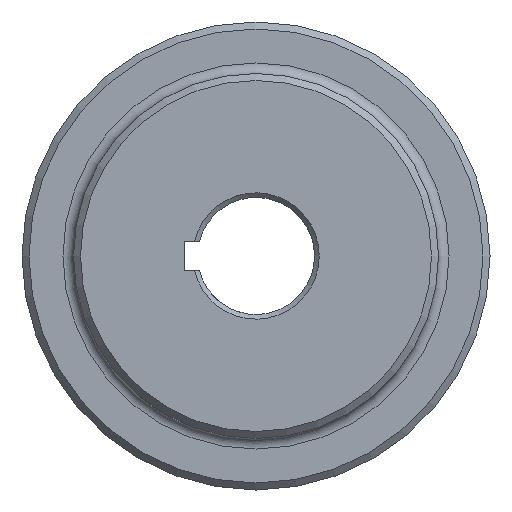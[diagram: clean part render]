
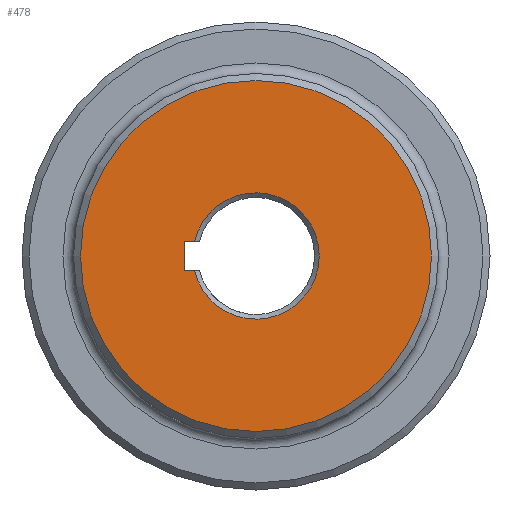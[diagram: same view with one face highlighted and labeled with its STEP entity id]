
A CAD part, left-side view. The second image highlights one B-rep face of the part: STEP entity #478.
In plain terms, the highlighted planar face has unit normal (-1, 0, 0).
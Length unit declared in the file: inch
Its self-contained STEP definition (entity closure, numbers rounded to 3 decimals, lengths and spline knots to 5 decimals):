
#58 = EDGE_LOOP ( 'NONE', ( #647 ) ) ;
#67 = EDGE_CURVE ( 'NONE', #342, #2124, #105, .T. ) ;
#88 = CARTESIAN_POINT ( 'NONE',  ( 0., 0., 0. ) ) ;
#105 = CIRCLE ( 'NONE', #518, 0.54015 ) ;
#119 = ORIENTED_EDGE ( 'NONE', *, *, #1329, .F. ) ;
#143 = CARTESIAN_POINT ( 'NONE',  ( 0., 0., 0.125 ) ) ;
#148 = CARTESIAN_POINT ( 'NONE',  ( 0., 0., 0. ) ) ;
#173 = LINE ( 'NONE', #1427, #1518 ) ;
#342 = VERTEX_POINT ( 'NONE', #949 ) ;
#413 = DIRECTION ( 'NONE',  ( 0., 1., 0. ) ) ;
#449 = DIRECTION ( 'NONE',  ( 0., -1., 0. ) ) ;
#478 = ADVANCED_FACE ( 'NONE', ( #2156, #1234 ), #1457, .F. ) ;
#518 = AXIS2_PLACEMENT_3D ( 'NONE', #148, #1135, #1544 ) ;
#641 = LINE ( 'NONE', #143, #1157 ) ;
#647 = ORIENTED_EDGE ( 'NONE', *, *, #1860, .T. ) ;
#770 = VERTEX_POINT ( 'NONE', #1750 ) ;
#807 = DIRECTION ( 'NONE',  ( 1., 0., 0. ) ) ;
#844 = CARTESIAN_POINT ( 'NONE',  ( 0., 0., 0. ) ) ;
#874 = AXIS2_PLACEMENT_3D ( 'NONE', #88, #1182, #1134 ) ;
#949 = CARTESIAN_POINT ( 'NONE',  ( 0., 0.52549, 0.125 ) ) ;
#1077 = CARTESIAN_POINT ( 'NONE',  ( 0., 0.52549, -0.125 ) ) ;
#1116 = CIRCLE ( 'NONE', #874, 1.5 ) ;
#1134 = DIRECTION ( 'NONE',  ( 0., 0., -1. ) ) ;
#1135 = DIRECTION ( 'NONE',  ( 1., 0., 0. ) ) ;
#1139 = CARTESIAN_POINT ( 'NONE',  ( 0., 0.61485, -0.125 ) ) ;
#1157 = VECTOR ( 'NONE', #413, 39.37008 ) ;
#1182 = DIRECTION ( 'NONE',  ( -1., 0., 0. ) ) ;
#1189 = VERTEX_POINT ( 'NONE', #1924 ) ;
#1198 = EDGE_CURVE ( 'NONE', #1590, #2124, #173, .T. ) ;
#1234 = FACE_BOUND ( 'NONE', #1829, .T. ) ;
#1326 = ORIENTED_EDGE ( 'NONE', *, *, #1198, .F. ) ;
#1329 = EDGE_CURVE ( 'NONE', #342, #770, #641, .T. ) ;
#1427 = CARTESIAN_POINT ( 'NONE',  ( 0., 0., -0.125 ) ) ;
#1457 = PLANE ( 'NONE',  #1639 ) ;
#1518 = VECTOR ( 'NONE', #449, 39.37008 ) ;
#1544 = DIRECTION ( 'NONE',  ( 0., 0., -1. ) ) ;
#1575 = ORIENTED_EDGE ( 'NONE', *, *, #67, .T. ) ;
#1590 = VERTEX_POINT ( 'NONE', #1873 ) ;
#1637 = DIRECTION ( 'NONE',  ( 0., 0., -1. ) ) ;
#1639 = AXIS2_PLACEMENT_3D ( 'NONE', #844, #807, #1637 ) ;
#1675 = VECTOR ( 'NONE', #1733, 39.37008 ) ;
#1693 = LINE ( 'NONE', #1139, #1675 ) ;
#1729 = ORIENTED_EDGE ( 'NONE', *, *, #1754, .F. ) ;
#1733 = DIRECTION ( 'NONE',  ( 0., 0., -1. ) ) ;
#1750 = CARTESIAN_POINT ( 'NONE',  ( 0., 0.61485, 0.125 ) ) ;
#1754 = EDGE_CURVE ( 'NONE', #770, #1590, #1693, .T. ) ;
#1829 = EDGE_LOOP ( 'NONE', ( #119, #1575, #1326, #1729 ) ) ;
#1860 = EDGE_CURVE ( 'NONE', #1189, #1189, #1116, .T. ) ;
#1873 = CARTESIAN_POINT ( 'NONE',  ( 0., 0.61485, -0.125 ) ) ;
#1924 = CARTESIAN_POINT ( 'NONE',  ( 0., 0., -1.5 ) ) ;
#2124 = VERTEX_POINT ( 'NONE', #1077 ) ;
#2156 = FACE_OUTER_BOUND ( 'NONE', #58, .T. ) ;
